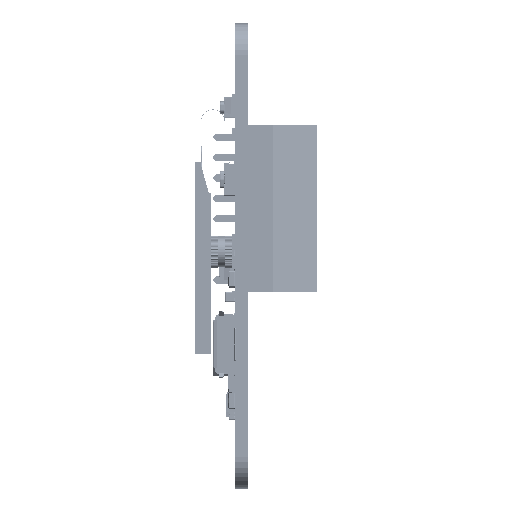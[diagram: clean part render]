
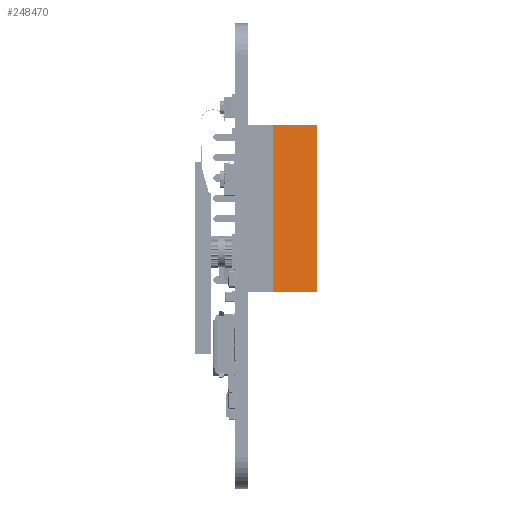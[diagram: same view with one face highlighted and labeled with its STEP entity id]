
A CAD part, left-side view. The second image highlights one B-rep face of the part: STEP entity #248470.
In plain terms, the highlighted planar face has unit normal (-0.977, -0.213, 0) as drawn and (0.977, 0.213, 0) by its records, which use the part's own axes.
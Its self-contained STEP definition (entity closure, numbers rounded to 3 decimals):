
#6222 = EDGE_CURVE ( 'NONE', #19011, #20000, #105305, .T. ) ;
#6287 = EDGE_CURVE ( 'NONE', #18615, #18899, #105678, .T. ) ;
#6296 = EDGE_CURVE ( 'NONE', #20000, #18899, #105730, .T. ) ;
#6300 = EDGE_CURVE ( 'NONE', #18615, #19011, #105749, .T. ) ;
#18615 = VERTEX_POINT ( 'NONE', #84979 ) ;
#18899 = VERTEX_POINT ( 'NONE', #85106 ) ;
#19011 = VERTEX_POINT ( 'NONE', #85154 ) ;
#20000 = VERTEX_POINT ( 'NONE', #85893 ) ;
#26674 = ORIENTED_EDGE ( 'NONE', *, *, #6287, .T. ) ;
#26678 = ORIENTED_EDGE ( 'NONE', *, *, #6296, .F. ) ;
#26682 = ORIENTED_EDGE ( 'NONE', *, *, #6222, .F. ) ;
#26685 = ORIENTED_EDGE ( 'NONE', *, *, #6300, .F. ) ;
#84979 = CARTESIAN_POINT ( 'NONE',  ( 1.9, 8.5, -10.39 ) ) ;
#85106 = CARTESIAN_POINT ( 'NONE',  ( 1.9, 8.5, 10.39 ) ) ;
#85154 = CARTESIAN_POINT ( 'NONE',  ( 3.1, 3., -10.39 ) ) ;
#85893 = CARTESIAN_POINT ( 'NONE',  ( 3.1, 3., 10.39 ) ) ;
#105305 = LINE ( 'NONE', #175897, #105314 ) ;
#105314 = VECTOR ( 'NONE', #175901, 1000. ) ;
#105678 = LINE ( 'NONE', #290160, #105685 ) ;
#105685 = VECTOR ( 'NONE', #290165, 1000. ) ;
#105730 = LINE ( 'NONE', #290197, #105738 ) ;
#105738 = VECTOR ( 'NONE', #290200, 1000. ) ;
#105749 = LINE ( 'NONE', #290226, #105761 ) ;
#105761 = VECTOR ( 'NONE', #290229, 1000. ) ;
#131631 = EDGE_LOOP ( 'NONE', ( #26674, #26678, #26682, #26685 ) ) ;
#175897 = CARTESIAN_POINT ( 'NONE',  ( 3.1, 3., 7.62 ) ) ;
#175901 = DIRECTION ( 'NONE',  ( 0., 0., 1. ) ) ;
#211618 = AXIS2_PLACEMENT_3D ( 'NONE', #221506, #221509, #221512 ) ;
#221502 = PLANE ( 'NONE',  #211618 ) ;
#221506 = CARTESIAN_POINT ( 'NONE',  ( 3.1, 3., 7.62 ) ) ;
#221509 = DIRECTION ( 'NONE',  ( 0.977, 0.213, 0. ) ) ;
#221512 = DIRECTION ( 'NONE',  ( -0.213, 0.977, 0. ) ) ;
#225797 = FACE_OUTER_BOUND ( 'NONE', #131631, .T. ) ;
#248470 = ADVANCED_FACE ( 'NONE', ( #225797 ), #221502, .T. ) ;
#290160 = CARTESIAN_POINT ( 'NONE',  ( 1.9, 8.5, 7.62 ) ) ;
#290165 = DIRECTION ( 'NONE',  ( 0., 0., 1. ) ) ;
#290197 = CARTESIAN_POINT ( 'NONE',  ( 3.1, 3., 10.39 ) ) ;
#290200 = DIRECTION ( 'NONE',  ( -0.213, 0.977, 0. ) ) ;
#290226 = CARTESIAN_POINT ( 'NONE',  ( 1.9, 8.5, -10.39 ) ) ;
#290229 = DIRECTION ( 'NONE',  ( 0.213, -0.977, 0. ) ) ;
